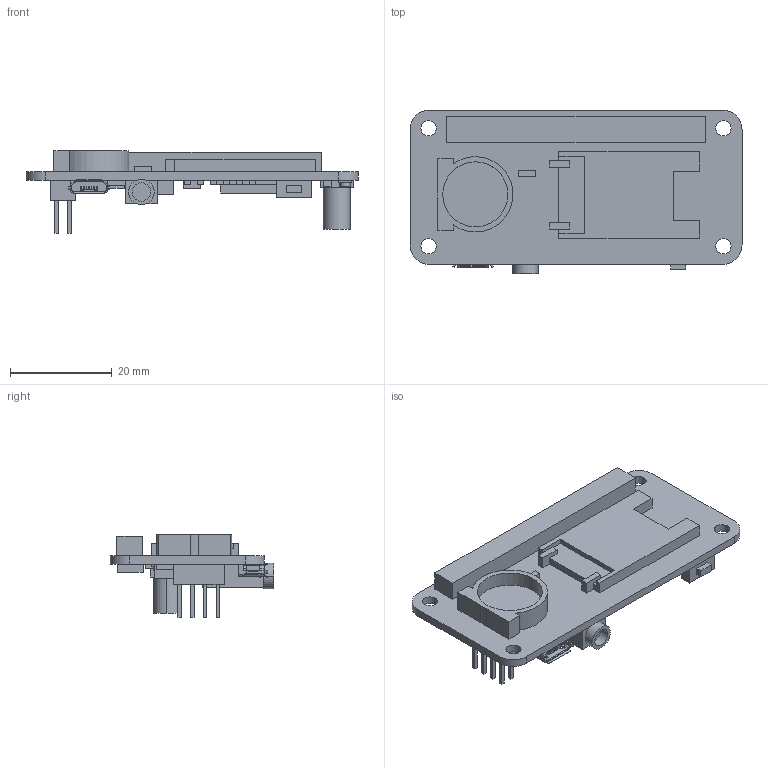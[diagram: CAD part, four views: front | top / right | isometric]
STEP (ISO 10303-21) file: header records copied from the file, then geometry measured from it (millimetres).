
FILE_DESCRIPTION((''),'2;1');
FILE_NAME('1023-1','2018-10-25T',('Administrator'),(''),'PRO/ENGINEER BY PARAMETRIC TECHNOLOGY CORPORATION, 2001280','PRO/ENGINEER BY PARAMETRIC TECHNOLOGY CORPORATION, 2001280','');
FILE_SCHEMA(('CONFIG_CONTROL_DESIGN'));
Length unit declared in the file: millimetre
Products named in the file (1): 1023-1
Bounding box: 65.3 x 32.15 x 16.3 mm (x, y, z)
Volume: 7254 mm3; surface area: 6646.7 mm2
Topology: 1 solids, 1 shells, 779 faces, 2163 edges, 1426 vertices
Faces by surface type: plane 584, cylinder 191, bspline 4
Entity records: 25220 total; most frequent: CARTESIAN_POINT 5032, ORIENTED_EDGE 4318, DIRECTION 3974, EDGE_CURVE 2159, VECTOR 1718, LINE 1718, VERTEX_POINT 1426, AXIS2_PLACEMENT_3D 1128
